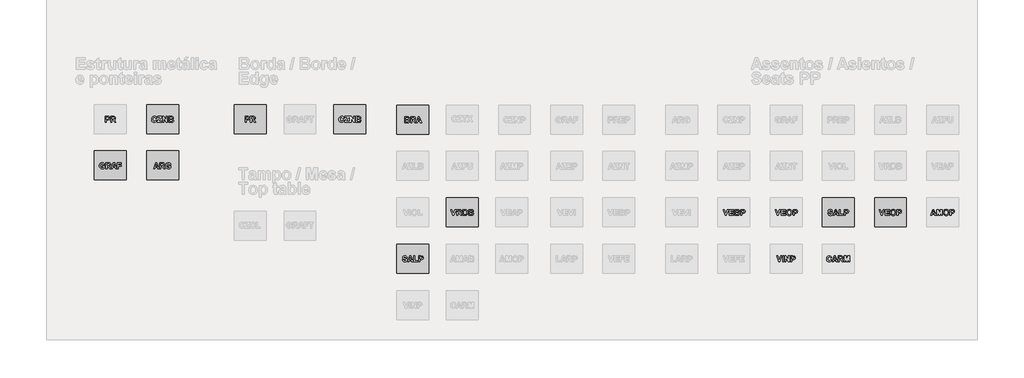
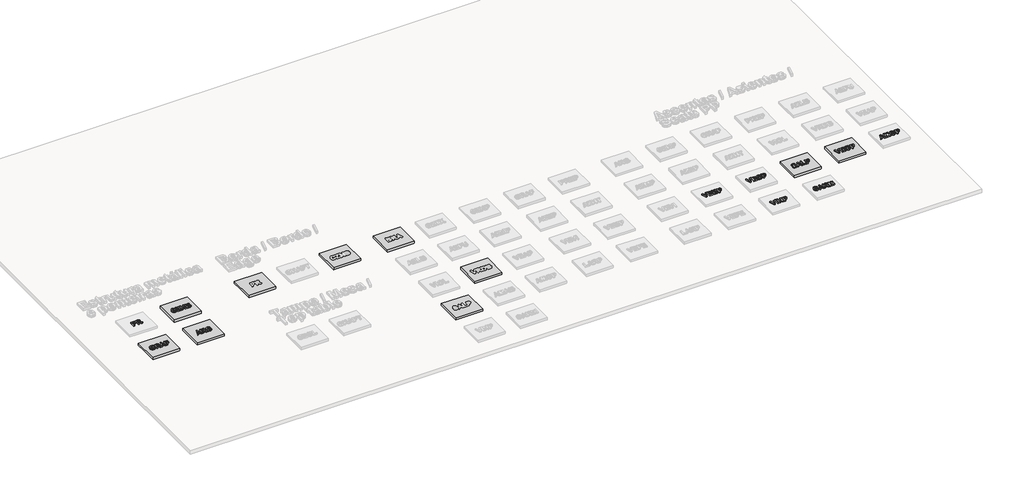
# One storey, part 3 of 11: 21 proxies.
"""IFC4 building model written with IfcOpenShell, lengths in millimetres."""

from ifc_helpers import new_model, si_unit, frame, origin, place, context, project, spatial, polyline, outline, extrude, transform, mapped, element, save
from components import generic_models_1_generic_models_1_b15fef0a, generic_models_10_generic_models_1_be3142f9, generic_models_2_generic_models_1_16534c7f, generic_models_27_generic_models_1_3b8869cb, generic_models_29_generic_models_1_1ee64e21, generic_models_33_generic_models_1_8c2d4387, generic_models_46_generic_models_1_758e49d4, generic_models_6_generic_models_1_0bd24bc8, generic_models_8_generic_models_1_6090e303

model = new_model("IFC4")

# Units and contexts
model_context = context("Model", 3, world=origin())
ifc_project = project(units=[si_unit("LENGTHUNIT", "METRE", prefix="MILLI")], contexts=[model_context])

# Site, building, storey
site = spatial("IfcSite", under=ifc_project)
building = spatial("IfcBuilding", under=site)
storey = spatial("IfcBuildingStorey", under=building, Name="Biblioteca BIM Revit Metadil - Refeitório", Elevation=0.0)

# Proxies
placement = place(None, origin())
element("IfcBuildingElementProxy", 1, Name="Arial 200mm", ObjectType="Arial 200mm", at=placement, inside=storey, context=model_context, shape_type="SweptSolid", body=[
    extrude(outline(polyline([(-14852.6470479, 2037.9143687), (-14813.7800232, 2024.9586938), (-14826.0398366, 1996.3334843), (-14844.3979268, 1976.1471764), (-14868.6898173, 1964.1720335), (-14898.7510317, 1960.1803192), (-14918.2130112, 1961.8851798), (-14935.8594248, 1966.9997614), (-14951.6902727, 1975.5240641), (-14965.7055548, 1987.4580879), (-14977.1746167, 2002.3495228), (-14985.3668037, 2019.746059), (-14990.2821159, 2039.6476963), (-14991.9205533, 2062.0544349), (-14990.2678824, 2085.682094), (-14985.3098696, 2106.5136553), (-14977.0465149, 2124.5491188), (-14965.4778184, 2139.7884844), (-14951.2142402, 2151.8996366), (-14934.8662408, 2160.5504596), (-14916.43382, 2165.7409533), (-14895.9169778, 2167.4711179), (-14861.807115, 2161.7650541), (-14847.409109, 2154.6324743), (-14834.7823868, 2144.6468625), (-14822.5225733, 2128.2371844), (-14813.7800232, 2105.9316621), (-14852.6470479, 2099.4538246), (-14858.5998263, 2112.8966025), (-14868.7657294, 2123.1637219), (-14882.3603317, 2129.6731894), (-14898.5992074, 2131.8430119), (-14920.556799, 2127.9019057), (-14937.9470092, 2116.0785872), (-14949.2768987, 2095.4368063), (-14953.0535286, 2065.0403131), (-14949.3907669, 2032.9800785), (-14938.4024821, 2011.6993703), (-14921.5436571, 1999.7811615), (-14900.2692749, 1995.8084253), (-14884.2075275, 1998.3451565), (-14870.5370131, 2005.9553503), (-14859.8270728, 2019.0185675), (-14852.6470479, 2037.9143687)])), frame((0.0, 0.0, 100.0), z_axis=(0.0, 0.0, 1.0), x_axis=(1.0, 0.0, 0.0)), (0.0, 0.0, 1.0), 50.0),
    extrude(outline(polyline([(-14797.5854295, 1960.1803192), (-14797.5854295, 1999.047344), (-14688.2213143, 2128.6040932), (-14784.6297546, 2128.6040932), (-14784.6297546, 2164.2321992), (-14638.8784117, 2164.2321992), (-14638.8784117, 2128.6040932), (-14750.9753647, 1995.8084253), (-14635.639493, 1995.8084253), (-14635.639493, 1960.1803192), (-14797.5854295, 1960.1803192)])), frame((0.0, 0.0, 100.0), z_axis=(0.0, 0.0, 1.0), x_axis=(1.0, 0.0, 0.0)), (0.0, 0.0, 1.0), 50.0),
    extrude(outline(polyline([(-14609.7281432, 1960.1803192), (-14609.7281432, 2164.2321992), (-14568.9886185, 2164.2321992), (-14483.4103127, 2026.8818018), (-14483.4103127, 2164.2321992), (-14444.5432879, 2164.2321992), (-14444.5432879, 1960.1803192), (-14486.5480152, 1960.1803192), (-14570.8611184, 2095.5063924), (-14570.8611184, 1960.1803192), (-14609.7281432, 1960.1803192)])), frame((0.0, 0.0, 100.0), z_axis=(0.0, 0.0, 1.0), x_axis=(1.0, 0.0, 0.0)), (0.0, 0.0, 1.0), 50.0),
    extrude(outline(polyline([(-14405.6762632, 2164.2321992), (-14321.9198491, 2164.2321992), (-14284.8494121, 2162.207875), (-14262.9867107, 2153.7310174), (-14246.9186373, 2136.5748697), (-14242.0982153, 2125.2196762), (-14240.491408, 2112.5613238), (-14242.4081899, 2098.7706152), (-14248.1585359, 2086.143893), (-14257.1984087, 2075.6047551), (-14268.9837712, 2068.0767994), (-14254.0796842, 2060.7639282), (-14243.0724213, 2049.6554491), (-14236.2782832, 2035.4978317), (-14234.0135705, 2019.0375455), (-14235.6393559, 2005.3670311), (-14240.516712, 1992.0887295), (-14248.209144, 1980.3223451), (-14258.2801569, 1971.1875821), (-14270.849945, 1964.867895), (-14286.0387026, 1961.5467381), (-14335.9382943, 1960.1803192), (-14405.6762632, 1960.1803192), (-14405.6762632, 2164.2321992)]), holes=[polyline([(-14366.8092384, 2128.6040932), (-14366.8092384, 2083.259231), (-14337.1528888, 2083.259231), (-14304.2576204, 2083.9171363), (-14286.0133985, 2090.9516629), (-14281.0221742, 2097.695193), (-14279.3584327, 2106.2859188), (-14280.7944377, 2114.5034099), (-14285.1024526, 2121.0381815), (-14302.13208, 2127.9461878), (-14340.7966724, 2128.6040932), (-14366.8092384, 2128.6040932)]), polyline([(-14366.8092384, 2047.6311249), (-14366.8092384, 1995.8084253), (-14325.715457, 1995.8084253), (-14295.2493777, 1997.0230198), (-14279.1053922, 2004.7407558), (-14274.4367945, 2011.9334328), (-14272.8805953, 2021.213694), (-14277.6883652, 2035.9912607), (-14291.5549861, 2044.8476792), (-14330.9280919, 2047.6311249), (-14366.8092384, 2047.6311249)])]), frame((0.0, 0.0, 100.0), z_axis=(0.0, 0.0, 1.0), x_axis=(1.0, 0.0, 0.0)), (0.0, 0.0, 1.0), 50.0),
])
element("IfcBuildingElementProxy", 2, Name="Arial 200mm", ObjectType="Arial 200mm", at=placement, inside=storey, context=model_context, shape_type="SweptSolid", body=[
    extrude(outline(polyline([(-14729.5681362, 360.1803192), (-14770.408877, 360.1803192), (-14786.4010383, 405.5251814), (-14863.4771824, 405.5251814), (-14879.2669112, 360.1803192), (-14920.6643413, 360.1803192), (-14846.1692105, 564.2321992), (-14804.7717804, 564.2321992), (-14729.5681362, 360.1803192)]), holes=[polyline([(-14798.8506321, 441.1532875), (-14825.1162387, 515.6484183), (-14851.0275886, 441.1532875), (-14798.8506321, 441.1532875)])]), frame((0.0, 0.0, 100.0), z_axis=(0.0, 0.0, 1.0), x_axis=(1.0, 0.0, 0.0)), (0.0, 0.0, 1.0), 50.0),
    extrude(outline(polyline([(-14710.1346238, 360.1803192), (-14710.1346238, 564.2321992), (-14624.3032775, 564.2321992), (-14596.3422994, 562.8531283), (-14577.2377397, 558.7159158), (-14564.0290242, 551.0487878), (-14553.7555789, 539.079971), (-14547.1512211, 523.9354955), (-14544.9497686, 506.7413918), (-14548.1317532, 485.675768), (-14557.677707, 468.6334886), (-14573.562326, 456.3863271), (-14595.7603061, 449.7060572), (-14575.3652398, 432.7017339), (-14553.7049708, 399.7558575), (-14528.7551749, 360.1803192), (-14574.1506452, 360.1803192), (-14603.7057787, 406.7903841), (-14626.9095949, 434.4477135), (-14640.1689184, 442.2666658), (-14662.3605725, 444.3922062), (-14671.267599, 444.3922062), (-14671.267599, 360.1803192), (-14710.1346238, 360.1803192)]), holes=[polyline([(-14671.267599, 480.0203122), (-14639.2326685, 480.0203122), (-14600.3403397, 482.3735891), (-14588.1943944, 490.4708859), (-14583.8167933, 504.8182838), (-14585.2591243, 513.5545079), (-14589.5861173, 520.4308842), (-14605.8819272, 527.9461878), (-14637.4613848, 528.6040932), (-14671.267599, 528.6040932), (-14671.267599, 480.0203122)])]), frame((0.0, 0.0, 100.0), z_axis=(0.0, 0.0, 1.0), x_axis=(1.0, 0.0, 0.0)), (0.0, 0.0, 1.0), 50.0),
    extrude(outline(polyline([(-14412.1541006, 434.67545), (-14412.1541006, 470.303556), (-14324.7032949, 470.303556), (-14324.7032949, 388.925723), (-14340.3158954, 376.9885361), (-14361.6472117, 366.5822445), (-14385.9897103, 359.3516115), (-14410.6358575, 356.9414005), (-14440.1024267, 360.2941875), (-14465.5456516, 370.3525484), (-14486.0672382, 386.6420322), (-14500.7688928, 408.688188), (-14509.6126591, 434.7070801), (-14512.5605813, 462.9147727), (-14509.2267723, 492.9317051), (-14499.2253456, 519.4187221), (-14482.7966894, 541.2624455), (-14460.1811924, 557.3494969), (-14438.1919707, 564.9407127), (-14411.3949791, 567.4711179), (-14377.6330469, 563.3845135), (-14352.158192, 551.1247), (-14334.6288096, 531.6532315), (-14324.7032949, 505.9316621), (-14363.5703197, 499.4538246), (-14370.1114173, 512.8966025), (-14380.6252511, 523.1637219), (-14394.6816523, 529.6731894), (-14411.850452, 531.8430119), (-14437.2936769, 527.6045831), (-14456.9422737, 514.8892967), (-14469.5057358, 493.8236729), (-14473.6935565, 464.5342321), (-14469.5310399, 433.0496646), (-14457.0434899, 410.5606879), (-14437.7997579, 397.0673019), (-14413.3686952, 392.5695065), (-14386.6223116, 397.5037968), (-14363.5703197, 409.4726136), (-14363.5703197, 434.67545), (-14412.1541006, 434.67545)])), frame((0.0, 0.0, 100.0), z_axis=(0.0, 0.0, 1.0), x_axis=(1.0, 0.0, 0.0)), (0.0, 0.0, 1.0), 50.0),
])
element("IfcBuildingElementProxy", 3, Name="Arial 200mm", ObjectType="Arial 200mm", at=placement, inside=storey, context=model_context, shape_type="SweptSolid", body=[
    extrude(outline(polyline([(-16589.4881327, 1960.1803192), (-16589.4881327, 2164.2321992), (-16523.7482041, 2164.2321992), (-16475.0125988, 2161.1957129), (-16458.9761555, 2153.9524279), (-16445.7864181, 2141.3320316), (-16436.9616298, 2123.8026492), (-16434.0200336, 2101.8324056), (-16435.7470352, 2084.6446278), (-16440.92804, 2070.4300763), (-16448.7722963, 2059.0685567), (-16458.4890525, 2050.4398748), (-16480.1240174, 2040.7990307), (-16523.3939474, 2037.9143687), (-16550.6211079, 2037.9143687), (-16550.6211079, 1960.1803192), (-16589.4881327, 1960.1803192)]), holes=[polyline([(-16550.6211079, 2128.6040932), (-16550.6211079, 2073.5424748), (-16526.4810418, 2073.5424748), (-16491.6373614, 2076.5789611), (-16477.8719568, 2086.1185889), (-16472.8870584, 2101.2251083), (-16474.639364, 2110.8786044), (-16479.896281, 2118.6849046), (-16497.5838137, 2127.2882825), (-16529.3150957, 2128.6040932), (-16550.6211079, 2128.6040932)])]), frame((0.0, 0.0, 100.0), z_axis=(0.0, 0.0, 1.0), x_axis=(1.0, 0.0, 0.0)), (0.0, 0.0, 1.0), 50.0),
    extrude(outline(polyline([(-16401.6308463, 1960.1803192), (-16401.6308463, 2164.2321992), (-16315.7995, 2164.2321992), (-16287.8385219, 2162.8531283), (-16268.7339622, 2158.7159158), (-16255.5252468, 2151.0487878), (-16245.2518014, 2139.079971), (-16238.6474437, 2123.9354955), (-16236.4459911, 2106.7413918), (-16239.6279757, 2085.675768), (-16249.1739296, 2068.6334886), (-16265.0585486, 2056.3863271), (-16287.2565287, 2049.7060572), (-16266.8614623, 2032.7017339), (-16245.2011933, 1999.7558575), (-16220.2513975, 1960.1803192), (-16265.6468678, 1960.1803192), (-16295.2020012, 2006.7903841), (-16318.4058174, 2034.4477135), (-16331.665141, 2042.2666658), (-16353.8567951, 2044.3922062), (-16362.7638216, 2044.3922062), (-16362.7638216, 1960.1803192), (-16401.6308463, 1960.1803192)]), holes=[polyline([(-16362.7638216, 2080.0203122), (-16330.728891, 2080.0203122), (-16291.8365622, 2082.3735891), (-16279.690617, 2090.4708859), (-16275.3130159, 2104.8182838), (-16276.7553469, 2113.5545079), (-16281.0823399, 2120.4308842), (-16297.3781497, 2127.9461878), (-16328.9576073, 2128.6040932), (-16362.7638216, 2128.6040932), (-16362.7638216, 2080.0203122)])]), frame((0.0, 0.0, 100.0), z_axis=(0.0, 0.0, 1.0), x_axis=(1.0, 0.0, 0.0)), (0.0, 0.0, 1.0), 50.0),
])
element("IfcBuildingElementProxy", 4, Name="Arial 200mm", ObjectType="Arial 200mm", at=placement, inside=storey, context=model_context, shape_type="SweptSolid", body=[
    extrude(outline(polyline([(-16693.133532, 434.67545), (-16693.133532, 470.303556), (-16605.6827263, 470.303556), (-16605.6827263, 388.925723), (-16621.2953268, 376.9885361), (-16642.6266431, 366.5822445), (-16666.9691417, 359.3516115), (-16691.6152889, 356.9414005), (-16721.0818581, 360.2941875), (-16746.525083, 370.3525484), (-16767.0466696, 386.6420322), (-16781.7483242, 408.688188), (-16790.5920906, 434.7070801), (-16793.5400127, 462.9147727), (-16790.2062038, 492.9317051), (-16780.204777, 519.4187221), (-16763.7761208, 541.2624455), (-16741.1606238, 557.3494969), (-16719.1714022, 564.9407127), (-16692.3744105, 567.4711179), (-16658.6124783, 563.3845135), (-16633.1376234, 551.1247), (-16615.608241, 531.6532315), (-16605.6827263, 505.9316621), (-16644.5497511, 499.4538246), (-16651.0908487, 512.8966025), (-16661.6046825, 523.1637219), (-16675.6610837, 529.6731894), (-16692.8298834, 531.8430119), (-16718.2731083, 527.6045831), (-16737.9217051, 514.8892967), (-16750.4851672, 493.8236729), (-16754.6729879, 464.5342321), (-16750.5104713, 433.0496646), (-16738.0229213, 410.5606879), (-16718.7791893, 397.0673019), (-16694.3481266, 392.5695065), (-16667.601743, 397.5037968), (-16644.5497511, 409.4726136), (-16644.5497511, 434.67545), (-16693.133532, 434.67545)])), frame((0.0, 0.0, 100.0), z_axis=(0.0, 0.0, 1.0), x_axis=(1.0, 0.0, 0.0)), (0.0, 0.0, 1.0), 50.0),
    extrude(outline(polyline([(-16566.8157016, 360.1803192), (-16566.8157016, 564.2321992), (-16480.9843552, 564.2321992), (-16453.0233771, 562.8531283), (-16433.9188174, 558.7159158), (-16420.710102, 551.0487878), (-16410.4366566, 539.079971), (-16403.8322989, 523.9354955), (-16401.6308463, 506.7413918), (-16404.812831, 485.675768), (-16414.3587848, 468.6334886), (-16430.2434038, 456.3863271), (-16452.4413839, 449.7060572), (-16432.0463175, 432.7017339), (-16410.3860485, 399.7558575), (-16385.4362527, 360.1803192), (-16430.831723, 360.1803192), (-16460.3868564, 406.7903841), (-16483.5906726, 434.4477135), (-16496.8499962, 442.2666658), (-16519.0416503, 444.3922062), (-16527.9486768, 444.3922062), (-16527.9486768, 360.1803192), (-16566.8157016, 360.1803192)]), holes=[polyline([(-16527.9486768, 480.0203122), (-16495.9137463, 480.0203122), (-16457.0214174, 482.3735891), (-16444.8754722, 490.4708859), (-16440.4978711, 504.8182838), (-16441.9402021, 513.5545079), (-16446.2671951, 520.4308842), (-16462.563005, 527.9461878), (-16494.1424626, 528.6040932), (-16527.9486768, 528.6040932), (-16527.9486768, 480.0203122)])]), frame((0.0, 0.0, 100.0), z_axis=(0.0, 0.0, 1.0), x_axis=(1.0, 0.0, 0.0)), (0.0, 0.0, 1.0), 50.0),
    extrude(outline(polyline([(-16191.1011289, 360.1803192), (-16231.9418698, 360.1803192), (-16247.934031, 405.5251814), (-16325.0101751, 405.5251814), (-16340.7999039, 360.1803192), (-16382.197334, 360.1803192), (-16307.7022032, 564.2321992), (-16266.3047732, 564.2321992), (-16191.1011289, 360.1803192)]), holes=[polyline([(-16260.3836249, 441.1532875), (-16286.6492314, 515.6484183), (-16312.5605813, 441.1532875), (-16260.3836249, 441.1532875)])]), frame((0.0, 0.0, 100.0), z_axis=(0.0, 0.0, 1.0), x_axis=(1.0, 0.0, 0.0)), (0.0, 0.0, 1.0), 50.0),
    extrude(outline(polyline([(-16171.6676165, 360.1803192), (-16171.6676165, 564.2321992), (-16032.3941111, 564.2321992), (-16032.3941111, 528.6040932), (-16132.8005918, 528.6040932), (-16132.8005918, 483.259231), (-16045.349786, 483.259231), (-16045.349786, 447.6311249), (-16132.8005918, 447.6311249), (-16132.8005918, 360.1803192), (-16171.6676165, 360.1803192)])), frame((0.0, 0.0, 100.0), z_axis=(0.0, 0.0, 1.0), x_axis=(1.0, 0.0, 0.0)), (0.0, 0.0, 1.0), 50.0),
])
element("IfcBuildingElementProxy", 5, Name="Arial 200mm", ObjectType="Arial 200mm", at=placement, inside=storey, context=model_context, shape_type="SweptSolid", body=[
    extrude(outline(polyline([(4788.2127806, -1251.3466779), (4719.4363656, -1047.2947979), (4760.4289308, -1047.2947979), (4811.7455495, -1199.5239782), (4863.2139924, -1047.2947979), (4904.0547333, -1047.2947979), (4831.6345348, -1251.3466779), (4788.2127806, -1251.3466779)])), frame((0.0, 0.0, 100.0), z_axis=(0.0, 0.0, 1.0), x_axis=(1.0, 0.0, 0.0)), (0.0, 0.0, 1.0), 50.0),
    extrude(outline(polyline([(4926.7271644, -1251.3466779), (4926.7271644, -1047.2947979), (5078.9563447, -1047.2947979), (5078.9563447, -1082.922904), (4965.5941891, -1082.922904), (4965.5941891, -1128.2677662), (5072.4785072, -1128.2677662), (5072.4785072, -1163.8958722), (4965.5941891, -1163.8958722), (4965.5941891, -1215.7185719), (5082.1952634, -1215.7185719), (5082.1952634, -1251.3466779), (4926.7271644, -1251.3466779)])), frame((0.0, 0.0, 100.0), z_axis=(0.0, 0.0, 1.0), x_axis=(1.0, 0.0, 0.0)), (0.0, 0.0, 1.0), 50.0),
    extrude(outline(polyline([(5114.5844507, -1047.2947979), (5198.3408647, -1047.2947979), (5235.4113018, -1049.3191221), (5257.2740032, -1057.7959797), (5273.3420766, -1074.9521274), (5278.1624986, -1086.307321), (5279.7693059, -1098.9656733), (5277.852524, -1112.7563819), (5272.102178, -1125.3831042), (5263.0623052, -1135.9222421), (5251.2769427, -1143.4501977), (5266.1810297, -1150.7630689), (5277.1882926, -1161.871548), (5283.9824307, -1176.0291654), (5286.2471434, -1192.4894516), (5284.621358, -1206.159966), (5279.7440019, -1219.4382676), (5272.0515699, -1231.2046521), (5261.980557, -1240.339415), (5249.4107689, -1246.6591022), (5234.2220113, -1249.9802591), (5184.3224196, -1251.3466779), (5114.5844507, -1251.3466779), (5114.5844507, -1047.2947979)]), holes=[polyline([(5153.4514755, -1082.922904), (5153.4514755, -1128.2677662), (5183.1078251, -1128.2677662), (5216.0030934, -1127.6098608), (5234.2473154, -1120.5753342), (5239.2385397, -1113.8318042), (5240.9022812, -1105.2410783), (5239.4662762, -1097.0235873), (5235.1582612, -1090.4888157), (5218.1286339, -1083.5808093), (5179.4640415, -1082.922904), (5153.4514755, -1082.922904)]), polyline([(5153.4514755, -1163.8958722), (5153.4514755, -1215.7185719), (5194.5452569, -1215.7185719), (5225.0113362, -1214.5039774), (5241.1553217, -1206.7862413), (5245.8239194, -1199.5935644), (5247.3801186, -1190.3133031), (5242.5723486, -1175.5357364), (5228.7057278, -1166.679318), (5189.332622, -1163.8958722), (5153.4514755, -1163.8958722)])]), frame((0.0, 0.0, 100.0), z_axis=(0.0, 0.0, 1.0), x_axis=(1.0, 0.0, 0.0)), (0.0, 0.0, 1.0), 50.0),
    extrude(outline(polyline([(5318.6363307, -1251.3466779), (5318.6363307, -1047.2947979), (5384.3762593, -1047.2947979), (5433.1118646, -1050.3312842), (5449.1483079, -1057.5745693), (5462.3380453, -1070.1949655), (5471.1628336, -1087.7243479), (5474.1044297, -1109.6945916), (5472.3774282, -1126.8823693), (5467.1964234, -1141.0969208), (5459.3521671, -1152.4584404), (5449.6354109, -1161.0871224), (5428.0004459, -1170.7279664), (5384.730516, -1173.6126284), (5357.5033555, -1173.6126284), (5357.5033555, -1251.3466779), (5318.6363307, -1251.3466779)]), holes=[polyline([(5357.5033555, -1082.922904), (5357.5033555, -1137.9845224), (5381.6434216, -1137.9845224), (5416.487102, -1134.9480361), (5430.2525066, -1125.4084082), (5435.237405, -1110.3018888), (5433.4850993, -1100.6483928), (5428.2281824, -1092.8420926), (5410.5406497, -1084.2387147), (5378.8093677, -1082.922904), (5357.5033555, -1082.922904)])]), frame((0.0, 0.0, 100.0), z_axis=(0.0, 0.0, 1.0), x_axis=(1.0, 0.0, 0.0)), (0.0, 0.0, 1.0), 50.0),
])
element("IfcBuildingElementProxy", 6, Name="Arial 200mm", ObjectType="Arial 200mm", at=placement, inside=storey, context=model_context, shape_type="SweptSolid", body=[
    extrude(outline(polyline([(10164.011393, -1251.3466779), (10095.2349781, -1047.2947979), (10136.2275433, -1047.2947979), (10187.5441619, -1199.5239782), (10239.0126049, -1047.2947979), (10279.8533457, -1047.2947979), (10207.4331473, -1251.3466779), (10164.011393, -1251.3466779)])), frame((0.0, 0.0, 100.0), z_axis=(0.0, 0.0, 1.0), x_axis=(1.0, 0.0, 0.0)), (0.0, 0.0, 1.0), 50.0),
    extrude(outline(polyline([(10302.5257769, -1251.3466779), (10302.5257769, -1047.2947979), (10454.7549572, -1047.2947979), (10454.7549572, -1082.922904), (10341.3928016, -1082.922904), (10341.3928016, -1128.2677662), (10448.2771197, -1128.2677662), (10448.2771197, -1163.8958722), (10341.3928016, -1163.8958722), (10341.3928016, -1215.7185719), (10457.9938759, -1215.7185719), (10457.9938759, -1251.3466779), (10302.5257769, -1251.3466779)])), frame((0.0, 0.0, 100.0), z_axis=(0.0, 0.0, 1.0), x_axis=(1.0, 0.0, 0.0)), (0.0, 0.0, 1.0), 50.0),
    extrude(outline(polyline([(10483.9052257, -1150.5859406), (10486.1952425, -1121.9670571), (10493.0652928, -1098.358376), (10511.7143795, -1070.448006), (10524.0943872, -1059.6748057), (10537.6004253, -1052.1025679), (10557.7677552, -1046.0675514), (10580.8197471, -1044.0558792), (10601.8537408, -1045.8002773), (10620.6736299, -1051.0334717), (10637.2794144, -1059.7554623), (10651.6710943, -1071.9662492), (10663.2951435, -1087.2831085), (10671.5980357, -1105.3233165), (10676.5797711, -1126.0868731), (10678.2403495, -1149.5737784), (10676.5924231, -1172.9009519), (10671.6486438, -1193.5395698), (10663.4090117, -1211.4896321), (10651.8735268, -1226.7511388), (10637.576737, -1238.9287141), (10621.0531907, -1247.6269822), (10602.3028878, -1252.845943), (10581.3258282, -1254.5855966), (10560.1273581, -1252.8538505), (10541.2189048, -1247.6586123), (10524.6004683, -1238.9998818), (10510.2720485, -1226.8776591), (10498.7365636, -1211.7189501), (10490.4969314, -1193.9507607), (10485.5531522, -1173.5730908), (10483.9052257, -1150.5859406)]), holes=[polyline([(10522.7722505, -1149.1689136), (10526.9031371, -1179.3693004), (10539.2957968, -1201.2446538), (10558.0524258, -1214.5292814), (10581.2752201, -1218.9574906), (10604.4474062, -1214.5609115), (10623.0522109, -1201.3711741), (10635.2930463, -1179.3882784), (10639.3733248, -1148.6122245), (10635.4005885, -1118.2979695), (10623.4823798, -1096.7895248), (10604.9851173, -1083.9603701), (10581.2752201, -1079.6839852), (10557.5147147, -1084.0109782), (10538.8656279, -1096.9919572), (10526.7955949, -1118.6901823), (10522.7722505, -1149.1689136)])]), frame((0.0, 0.0, 100.0), z_axis=(0.0, 0.0, 1.0), x_axis=(1.0, 0.0, 0.0)), (0.0, 0.0, 1.0), 50.0),
    extrude(outline(polyline([(10710.6295368, -1251.3466779), (10710.6295368, -1047.2947979), (10776.3694654, -1047.2947979), (10825.1050707, -1050.3312842), (10841.141514, -1057.5745693), (10854.3312514, -1070.1949655), (10863.1560398, -1087.7243479), (10866.0976359, -1109.6945916), (10864.3706343, -1126.8823693), (10859.1896295, -1141.0969208), (10851.3453732, -1152.4584404), (10841.628617, -1161.0871224), (10819.9936521, -1170.7279664), (10776.7237222, -1173.6126284), (10749.4965616, -1173.6126284), (10749.4965616, -1251.3466779), (10710.6295368, -1251.3466779)]), holes=[polyline([(10749.4965616, -1082.922904), (10749.4965616, -1137.9845224), (10773.6366278, -1137.9845224), (10808.4803082, -1134.9480361), (10822.2457128, -1125.4084082), (10827.2306111, -1110.3018888), (10825.4783055, -1100.6483928), (10820.2213886, -1092.8420926), (10802.5338558, -1084.2387147), (10770.8025739, -1082.922904), (10749.4965616, -1082.922904)])]), frame((0.0, 0.0, 100.0), z_axis=(0.0, 0.0, 1.0), x_axis=(1.0, 0.0, 0.0)), (0.0, 0.0, 1.0), 50.0),
])
element("IfcBuildingElementProxy", 7, Name="Arial 200mm", ObjectType="Arial 200mm", at=placement, inside=storey, context=model_context, shape_type="SweptSolid", body=[
    extrude(outline(polyline([(12060.4198334, -1251.3466779), (12019.5790925, -1251.3466779), (12003.5869313, -1206.0018157), (11926.5107871, -1206.0018157), (11910.7210583, -1251.3466779), (11869.3236283, -1251.3466779), (11943.8187591, -1047.2947979), (11985.2161891, -1047.2947979), (12060.4198334, -1251.3466779)]), holes=[polyline([(11991.1373374, -1170.3737097), (11964.8717308, -1095.8785789), (11938.960381, -1170.3737097), (11991.1373374, -1170.3737097)])]), frame((0.0, 0.0, 100.0), z_axis=(0.0, 0.0, 1.0), x_axis=(1.0, 0.0, 0.0)), (0.0, 0.0, 1.0), 50.0),
    extrude(outline(polyline([(12079.8533457, -1251.3466779), (12079.8533457, -1047.2947979), (12146.4536121, -1047.2947979), (12178.640367, -1186.4670871), (12210.8271219, -1047.2947979), (12277.4273883, -1047.2947979), (12277.4273883, -1251.3466779), (12238.5603635, -1251.3466779), (12236.9409042, -1090.7165522), (12201.4140143, -1251.3466779), (12155.9173278, -1251.3466779), (12120.3398299, -1090.7165522), (12118.7203705, -1251.3466779), (12079.8533457, -1251.3466779)])), frame((0.0, 0.0, 100.0), z_axis=(0.0, 0.0, 1.0), x_axis=(1.0, 0.0, 0.0)), (0.0, 0.0, 1.0), 50.0),
    extrude(outline(polyline([(12309.8165756, -1150.5859406), (12312.1065923, -1121.9670571), (12318.9766426, -1098.358376), (12337.6257294, -1070.448006), (12350.0057371, -1059.6748057), (12363.5117751, -1052.1025679), (12383.6791051, -1046.0675514), (12406.731097, -1044.0558792), (12427.7650907, -1045.8002773), (12446.5849798, -1051.0334717), (12463.1907643, -1059.7554623), (12477.5824442, -1071.9662492), (12489.2064933, -1087.2831085), (12497.5093856, -1105.3233165), (12502.4911209, -1126.0868731), (12504.1516994, -1149.5737784), (12502.503773, -1172.9009519), (12497.5599937, -1193.5395698), (12489.3203616, -1211.4896321), (12477.7848766, -1226.7511388), (12463.4880869, -1238.9287141), (12446.9645406, -1247.6269822), (12428.2142376, -1252.845943), (12407.237178, -1254.5855966), (12386.038708, -1252.8538505), (12367.1302547, -1247.6586123), (12350.5118181, -1238.9998818), (12336.1833984, -1226.8776591), (12324.6479134, -1211.7189501), (12316.4082813, -1193.9507607), (12311.464502, -1173.5730908), (12309.8165756, -1150.5859406)]), holes=[polyline([(12348.6836003, -1149.1689136), (12352.8144869, -1179.3693004), (12365.2071467, -1201.2446538), (12383.9637756, -1214.5292814), (12407.1865699, -1218.9574906), (12430.358756, -1214.5609115), (12448.9635607, -1201.3711741), (12461.2043961, -1179.3882784), (12465.2846746, -1148.6122245), (12461.3119384, -1118.2979695), (12449.3937296, -1096.7895248), (12430.8964672, -1083.9603701), (12407.1865699, -1079.6839852), (12383.4260645, -1084.0109782), (12364.7769778, -1096.9919572), (12352.7069447, -1118.6901823), (12348.6836003, -1149.1689136)])]), frame((0.0, 0.0, 100.0), z_axis=(0.0, 0.0, 1.0), x_axis=(1.0, 0.0, 0.0)), (0.0, 0.0, 1.0), 50.0),
    extrude(outline(polyline([(12536.5408867, -1251.3466779), (12536.5408867, -1047.2947979), (12602.2808153, -1047.2947979), (12651.0164205, -1050.3312842), (12667.0528639, -1057.5745693), (12680.2426013, -1070.1949655), (12689.0673896, -1087.7243479), (12692.0089857, -1109.6945916), (12690.2819841, -1126.8823693), (12685.1009794, -1141.0969208), (12677.2567231, -1152.4584404), (12667.5399669, -1161.0871224), (12645.9050019, -1170.7279664), (12602.635072, -1173.6126284), (12575.4079114, -1173.6126284), (12575.4079114, -1251.3466779), (12536.5408867, -1251.3466779)]), holes=[polyline([(12575.4079114, -1082.922904), (12575.4079114, -1137.9845224), (12599.5479776, -1137.9845224), (12634.391658, -1134.9480361), (12648.1570626, -1125.4084082), (12653.141961, -1110.3018888), (12651.3896553, -1100.6483928), (12646.1327384, -1092.8420926), (12628.4452056, -1084.2387147), (12596.7139237, -1082.922904), (12575.4079114, -1082.922904)])]), frame((0.0, 0.0, 100.0), z_axis=(0.0, 0.0, 1.0), x_axis=(1.0, 0.0, 0.0)), (0.0, 0.0, 1.0), 50.0),
])
element("IfcBuildingElementProxy", 8, Name="Arial 200mm", ObjectType="Arial 200mm", at=placement, inside=storey, context=model_context, shape_type="SweptSolid", body=[
    extrude(outline(polyline([(8327.6241654, -1183.3293846), (8366.4911902, -1180.0904659), (8372.159298, -1197.47435), (8381.6736217, -1209.5443831), (8395.0974216, -1216.6042137), (8412.4939578, -1218.9574906), (8430.5483993, -1216.8762323), (8443.5167262, -1210.6324573), (8451.3356785, -1201.6052366), (8453.9419959, -1191.1736409), (8449.6150029, -1179.0023916), (8434.4578754, -1170.2724935), (8400.7528774, -1161.6185075), (8371.9821696, -1152.6735249), (8353.2824747, -1141.7295221), (8338.8971209, -1123.0930874), (8334.1020029, -1100.7875651), (8336.3034555, -1085.7569578), (8342.9078132, -1071.7385127), (8353.6620355, -1059.832956), (8368.313082, -1051.1410139), (8386.620564, -1045.8271629), (8408.3440932, -1044.0558792), (8441.9162449, -1048.4714364), (8466.012029, -1061.7181079), (8480.7706177, -1082.3282587), (8486.3311832, -1108.8342538), (8447.4641584, -1108.8342538), (8443.1687955, -1095.48004), (8435.7483821, -1086.4907754), (8424.5197088, -1081.3856828), (8408.7995661, -1079.6839852), (8392.2507157, -1081.493225), (8379.7505137, -1086.9209443), (8374.6643992, -1092.3613156), (8372.9690277, -1099.3705381), (8374.5125749, -1105.9875479), (8379.1432165, -1111.5670915), (8392.5859944, -1118.1018631), (8417.2258156, -1124.8517191), (8461.9380765, -1139.2244209), (8474.8431433, -1148.1251214), (8484.6105076, -1159.7966157), (8490.7593924, -1174.384402), (8492.8090207, -1192.0339787), (8490.3861576, -1208.8864777), (8483.1175685, -1224.6255984), (8471.4144442, -1237.8596179), (8455.6879755, -1247.1968133), (8435.7673601, -1252.7384008), (8411.4817957, -1254.5855966), (8377.3972369, -1250.0371932), (8352.2703126, -1236.3919828), (8335.7847224, -1214.0295264), (8327.6241654, -1183.3293846)])), frame((0.0, 0.0, 100.0), z_axis=(0.0, 0.0, 1.0), x_axis=(1.0, 0.0, 0.0)), (0.0, 0.0, 1.0), 50.0),
    extrude(outline(polyline([(8696.8609007, -1251.3466779), (8656.0201598, -1251.3466779), (8640.0279986, -1206.0018157), (8562.9518544, -1206.0018157), (8547.1621256, -1251.3466779), (8505.7646956, -1251.3466779), (8580.2598264, -1047.2947979), (8621.6572564, -1047.2947979), (8696.8609007, -1251.3466779)]), holes=[polyline([(8627.5784047, -1170.3737097), (8601.3127981, -1095.8785789), (8575.4014483, -1170.3737097), (8627.5784047, -1170.3737097)])]), frame((0.0, 0.0, 100.0), z_axis=(0.0, 0.0, 1.0), x_axis=(1.0, 0.0, 0.0)), (0.0, 0.0, 1.0), 50.0),
    extrude(outline(polyline([(8716.294413, -1251.3466779), (8716.294413, -1047.2947979), (8755.1614378, -1047.2947979), (8755.1614378, -1215.7185719), (8858.8068372, -1215.7185719), (8858.8068372, -1251.3466779), (8716.294413, -1251.3466779)])), frame((0.0, 0.0, 100.0), z_axis=(0.0, 0.0, 1.0), x_axis=(1.0, 0.0, 0.0)), (0.0, 0.0, 1.0), 50.0),
    extrude(outline(polyline([(8887.9571057, -1251.3466779), (8887.9571057, -1047.2947979), (8953.6970343, -1047.2947979), (9002.4326396, -1050.3312842), (9018.4690829, -1057.5745693), (9031.6588203, -1070.1949655), (9040.4836087, -1087.7243479), (9043.4252048, -1109.6945916), (9041.6982032, -1126.8823693), (9036.5171984, -1141.0969208), (9028.6729421, -1152.4584404), (9018.9561859, -1161.0871224), (8997.321221, -1170.7279664), (8954.0512911, -1173.6126284), (8926.8241305, -1173.6126284), (8926.8241305, -1251.3466779), (8887.9571057, -1251.3466779)]), holes=[polyline([(8926.8241305, -1082.922904), (8926.8241305, -1137.9845224), (8950.9641966, -1137.9845224), (8985.807877, -1134.9480361), (8999.5732817, -1125.4084082), (9004.55818, -1110.3018888), (9002.8058744, -1100.6483928), (8997.5489574, -1092.8420926), (8979.8614247, -1084.2387147), (8948.1301428, -1082.922904), (8926.8241305, -1082.922904)])]), frame((0.0, 0.0, 100.0), z_axis=(0.0, 0.0, 1.0), x_axis=(1.0, 0.0, 0.0)), (0.0, 0.0, 1.0), 50.0),
])
element("IfcBuildingElementProxy", 9, Name="Arial 200mm", ObjectType="Arial 200mm", at=placement, inside=storey, context=model_context, shape_type="SweptSolid", body=[
    extrude(outline(polyline([(6580.1154837, -1251.3466779), (6511.3390688, -1047.2947979), (6552.331634, -1047.2947979), (6603.6482526, -1199.5239782), (6655.1166956, -1047.2947979), (6695.9574364, -1047.2947979), (6623.537238, -1251.3466779), (6580.1154837, -1251.3466779)])), frame((0.0, 0.0, 100.0), z_axis=(0.0, 0.0, 1.0), x_axis=(1.0, 0.0, 0.0)), (0.0, 0.0, 1.0), 50.0),
    extrude(outline(polyline([(6718.6298675, -1251.3466779), (6718.6298675, -1047.2947979), (6870.8590479, -1047.2947979), (6870.8590479, -1082.922904), (6757.4968923, -1082.922904), (6757.4968923, -1128.2677662), (6864.3812104, -1128.2677662), (6864.3812104, -1163.8958722), (6757.4968923, -1163.8958722), (6757.4968923, -1215.7185719), (6874.0979666, -1215.7185719), (6874.0979666, -1251.3466779), (6718.6298675, -1251.3466779)])), frame((0.0, 0.0, 100.0), z_axis=(0.0, 0.0, 1.0), x_axis=(1.0, 0.0, 0.0)), (0.0, 0.0, 1.0), 50.0),
    extrude(outline(polyline([(6900.0093164, -1150.5859406), (6902.2993332, -1121.9670571), (6909.1693835, -1098.358376), (6927.8184702, -1070.448006), (6940.1984779, -1059.6748057), (6953.704516, -1052.1025679), (6973.8718459, -1046.0675514), (6996.9238378, -1044.0558792), (7017.9578315, -1045.8002773), (7036.7777206, -1051.0334717), (7053.3835051, -1059.7554623), (7067.775185, -1071.9662492), (7079.3992342, -1087.2831085), (7087.7021264, -1105.3233165), (7092.6838618, -1126.0868731), (7094.3444402, -1149.5737784), (7092.6965138, -1172.9009519), (7087.7527345, -1193.5395698), (7079.5131024, -1211.4896321), (7067.9776174, -1226.7511388), (7053.6808277, -1238.9287141), (7037.1572814, -1247.6269822), (7018.4069784, -1252.845943), (6997.4299189, -1254.5855966), (6976.2314488, -1252.8538505), (6957.3229955, -1247.6586123), (6940.704559, -1238.9998818), (6926.3761392, -1226.8776591), (6914.8406542, -1211.7189501), (6906.6010221, -1193.9507607), (6901.6572428, -1173.5730908), (6900.0093164, -1150.5859406)]), holes=[polyline([(6938.8763412, -1149.1689136), (6943.0072278, -1179.3693004), (6955.3998875, -1201.2446538), (6974.1565165, -1214.5292814), (6997.3793107, -1218.9574906), (7020.5514969, -1214.5609115), (7039.1563016, -1201.3711741), (7051.397137, -1179.3882784), (7055.4774155, -1148.6122245), (7051.5046792, -1118.2979695), (7039.5864704, -1096.7895248), (7021.089208, -1083.9603701), (6997.3793107, -1079.6839852), (6973.6188054, -1084.0109782), (6954.9697186, -1096.9919572), (6942.8996855, -1118.6901823), (6938.8763412, -1149.1689136)])]), frame((0.0, 0.0, 100.0), z_axis=(0.0, 0.0, 1.0), x_axis=(1.0, 0.0, 0.0)), (0.0, 0.0, 1.0), 50.0),
    extrude(outline(polyline([(7126.7336275, -1251.3466779), (7126.7336275, -1047.2947979), (7192.4735561, -1047.2947979), (7241.2091614, -1050.3312842), (7257.2456047, -1057.5745693), (7270.4353421, -1070.1949655), (7279.2601305, -1087.7243479), (7282.2017266, -1109.6945916), (7280.474725, -1126.8823693), (7275.2937202, -1141.0969208), (7267.4494639, -1152.4584404), (7257.7327077, -1161.0871224), (7236.0977428, -1170.7279664), (7192.8278129, -1173.6126284), (7165.6006523, -1173.6126284), (7165.6006523, -1251.3466779), (7126.7336275, -1251.3466779)]), holes=[polyline([(7165.6006523, -1082.922904), (7165.6006523, -1137.9845224), (7189.7407184, -1137.9845224), (7224.5843988, -1134.9480361), (7238.3498034, -1125.4084082), (7243.3347018, -1110.3018888), (7241.5823962, -1100.6483928), (7236.3254792, -1092.8420926), (7218.6379465, -1084.2387147), (7186.9066646, -1082.922904), (7165.6006523, -1082.922904)])]), frame((0.0, 0.0, 100.0), z_axis=(0.0, 0.0, 1.0), x_axis=(1.0, 0.0, 0.0)), (0.0, 0.0, 1.0), 50.0),
])
element("IfcBuildingElementProxy", 10, Name="Arial 200mm", ObjectType="Arial 200mm", at=placement, inside=storey, context=model_context, shape_type="SweptSolid", body=[
    extrude(outline(polyline([(8421.5528086, -2773.6126284), (8460.4198334, -2786.5683033), (8448.1600199, -2815.1935128), (8429.8019297, -2835.3798207), (8405.5100393, -2847.3549636), (8375.4488248, -2851.3466779), (8355.9868454, -2849.6418174), (8338.3404317, -2844.5272357), (8322.5095838, -2836.002933), (8308.4943017, -2824.0689092), (8297.0252399, -2809.1774743), (8288.8330528, -2791.7809381), (8283.9177406, -2771.8793008), (8282.2793032, -2749.4725622), (8283.9319741, -2725.8449031), (8288.889987, -2705.0133419), (8297.1533416, -2686.9778784), (8308.7220382, -2671.7385127), (8322.9856163, -2659.6273606), (8339.3336158, -2650.9765376), (8357.7660366, -2645.7860438), (8378.2828787, -2644.0558792), (8412.3927416, -2649.7619431), (8426.7907475, -2656.8945229), (8439.4174697, -2666.8801346), (8451.6772832, -2683.2898127), (8460.4198334, -2705.5953351), (8421.5528086, -2712.0731725), (8415.6000302, -2698.6303946), (8405.4341271, -2688.3632753), (8391.8395249, -2681.8538077), (8375.6006491, -2679.6839852), (8353.6430575, -2683.6250914), (8336.2528474, -2695.44841), (8324.9229578, -2716.0901909), (8321.146328, -2746.486684), (8324.8090896, -2778.5469187), (8335.7973744, -2799.8276269), (8352.6561994, -2811.7458356), (8373.9305817, -2815.7185719), (8389.992329, -2813.1818406), (8403.6628434, -2805.5716468), (8414.3727837, -2792.5084297), (8421.5528086, -2773.6126284)])), frame((0.0, 0.0, 100.0), z_axis=(0.0, 0.0, 1.0), x_axis=(1.0, 0.0, 0.0)), (0.0, 0.0, 1.0), 50.0),
    extrude(outline(polyline([(8664.4717134, -2851.3466779), (8623.6309725, -2851.3466779), (8607.6388113, -2806.0018157), (8530.5626671, -2806.0018157), (8514.7729383, -2851.3466779), (8473.3755083, -2851.3466779), (8547.8706391, -2647.2947979), (8589.2680691, -2647.2947979), (8664.4717134, -2851.3466779)]), holes=[polyline([(8595.1892174, -2770.3737097), (8568.9236108, -2695.8785789), (8543.012261, -2770.3737097), (8595.1892174, -2770.3737097)])]), frame((0.0, 0.0, 100.0), z_axis=(0.0, 0.0, 1.0), x_axis=(1.0, 0.0, 0.0)), (0.0, 0.0, 1.0), 50.0),
    extrude(outline(polyline([(8683.9052257, -2851.3466779), (8683.9052257, -2647.2947979), (8769.7365721, -2647.2947979), (8797.6975502, -2648.6738688), (8816.8021099, -2652.8110814), (8830.0108253, -2660.4782093), (8840.2842707, -2672.4470262), (8846.8886284, -2687.5915017), (8849.090081, -2704.7856054), (8845.9080964, -2725.8512292), (8836.3621425, -2742.8935086), (8820.4775235, -2755.14067), (8798.2795434, -2761.8209399), (8818.6746098, -2778.8252632), (8840.3348788, -2811.7711397), (8865.2846746, -2851.3466779), (8819.8892043, -2851.3466779), (8790.3340709, -2804.7366131), (8767.1302547, -2777.0792836), (8753.8709311, -2769.2603314), (8731.679277, -2767.1347909), (8722.7722505, -2767.1347909), (8722.7722505, -2851.3466779), (8683.9052257, -2851.3466779)]), holes=[polyline([(8722.7722505, -2731.5066849), (8754.8071811, -2731.5066849), (8793.6995099, -2729.153408), (8805.8454551, -2721.0561112), (8810.2230562, -2706.7087134), (8808.7807252, -2697.9724892), (8804.4537322, -2691.0961129), (8788.1579224, -2683.5808093), (8756.5784647, -2682.922904), (8722.7722505, -2682.922904), (8722.7722505, -2731.5066849)])]), frame((0.0, 0.0, 100.0), z_axis=(0.0, 0.0, 1.0), x_axis=(1.0, 0.0, 0.0)), (0.0, 0.0, 1.0), 50.0),
    extrude(outline(polyline([(8887.9571057, -2851.3466779), (8887.9571057, -2647.2947979), (8954.5573721, -2647.2947979), (8986.744127, -2786.4670871), (9018.9308819, -2647.2947979), (9085.5311483, -2647.2947979), (9085.5311483, -2851.3466779), (9046.6641235, -2851.3466779), (9045.0446641, -2690.7165522), (9009.5177743, -2851.3466779), (8964.0210878, -2851.3466779), (8928.4435899, -2690.7165522), (8926.8241305, -2851.3466779), (8887.9571057, -2851.3466779)])), frame((0.0, 0.0, 100.0), z_axis=(0.0, 0.0, 1.0), x_axis=(1.0, 0.0, 0.0)), (0.0, 0.0, 1.0), 50.0),
])
element("IfcBuildingElementProxy", 11, Name="Arial 200mm", ObjectType="Arial 200mm", at=placement, inside=storey, context=model_context, shape_type="SweptSolid", body=[
    extrude(outline(polyline([(6627.1703083, -2851.3466779), (6558.3938934, -2647.2947979), (6599.3864585, -2647.2947979), (6650.7030772, -2799.5239782), (6702.1715201, -2647.2947979), (6743.012261, -2647.2947979), (6670.5920625, -2851.3466779), (6627.1703083, -2851.3466779)])), frame((0.0, 0.0, 100.0), z_axis=(0.0, 0.0, 1.0), x_axis=(1.0, 0.0, 0.0)), (0.0, 0.0, 1.0), 50.0),
    extrude(outline(polyline([(6765.6846921, -2851.3466779), (6765.6846921, -2647.2947979), (6804.5517169, -2647.2947979), (6804.5517169, -2851.3466779), (6765.6846921, -2851.3466779)])), frame((0.0, 0.0, 100.0), z_axis=(0.0, 0.0, 1.0), x_axis=(1.0, 0.0, 0.0)), (0.0, 0.0, 1.0), 50.0),
    extrude(outline(polyline([(6843.4187416, -2851.3466779), (6843.4187416, -2647.2947979), (6884.1582663, -2647.2947979), (6969.7365721, -2784.6451953), (6969.7365721, -2647.2947979), (7008.6035968, -2647.2947979), (7008.6035968, -2851.3466779), (6966.5988696, -2851.3466779), (6882.2857664, -2716.0206047), (6882.2857664, -2851.3466779), (6843.4187416, -2851.3466779)])), frame((0.0, 0.0, 100.0), z_axis=(0.0, 0.0, 1.0), x_axis=(1.0, 0.0, 0.0)), (0.0, 0.0, 1.0), 50.0),
    extrude(outline(polyline([(7047.4706216, -2851.3466779), (7047.4706216, -2647.2947979), (7113.2105502, -2647.2947979), (7161.9461555, -2650.3312842), (7177.9825988, -2657.5745693), (7191.1723362, -2670.1949655), (7199.9971245, -2687.7243479), (7202.9387206, -2709.6945916), (7201.2117191, -2726.8823693), (7196.0307143, -2741.0969208), (7188.186458, -2752.4584404), (7178.4697018, -2761.0871224), (7156.8347368, -2770.7279664), (7113.5648069, -2773.6126284), (7086.3376464, -2773.6126284), (7086.3376464, -2851.3466779), (7047.4706216, -2851.3466779)]), holes=[polyline([(7086.3376464, -2682.922904), (7086.3376464, -2737.9845224), (7110.4777125, -2737.9845224), (7145.3213929, -2734.9480361), (7159.0867975, -2725.4084082), (7164.0716959, -2710.3018888), (7162.3193902, -2700.6483928), (7157.0624733, -2692.8420926), (7139.3749406, -2684.2387147), (7107.6436586, -2682.922904), (7086.3376464, -2682.922904)])]), frame((0.0, 0.0, 100.0), z_axis=(0.0, 0.0, 1.0), x_axis=(1.0, 0.0, 0.0)), (0.0, 0.0, 1.0), 50.0),
])
generic_models_1_generic_models_1_shape = generic_models_1_generic_models_1_b15fef0a(model_context)
element("IfcBuildingElementProxy", 12, Name="Generic Models 1 : Generic Models 1", ObjectType="Generic Models 1 : Generic Models 1", at=placement, inside=storey, context=model_context, shape_type="MappedRepresentation", body=[
    mapped(generic_models_1_generic_models_1_shape, transform((-17418.4989422, 10787.4229657, 0.0), x_axis=(1.0, 0.0, 0.0), y_axis=(0.0, 1.0, 0.0), z_axis=(0.0, 0.0, 1.0))),
])
generic_models_10_generic_models_1_shape = generic_models_10_generic_models_1_be3142f9(model_context)
element("IfcBuildingElementProxy", 13, Name="Generic Models 10 : Generic Models 1", ObjectType="Generic Models 10 : Generic Models 1", at=placement, inside=storey, context=model_context, shape_type="MappedRepresentation", body=[
    mapped(generic_models_10_generic_models_1_shape, transform((-23478.4989422, 10987.4229657, 0.0), x_axis=(1.0, 0.0, 0.0), y_axis=(0.0, 1.0, 0.0), z_axis=(0.0, 0.0, 1.0))),
])
generic_models_2_generic_models_1_shape = generic_models_2_generic_models_1_16534c7f(model_context)
element("IfcBuildingElementProxy", 14, Name="Generic Models 2 : Generic Models 1", ObjectType="Generic Models 2 : Generic Models 1", at=placement, inside=storey, context=model_context, shape_type="MappedRepresentation", body=[
    mapped(generic_models_2_generic_models_1_shape, transform((-18658.4989422, 10787.4229657, 0.0), x_axis=(1.0, 0.0, 0.0), y_axis=(0.0, 1.0, 0.0), z_axis=(0.0, 0.0, 1.0))),
])
generic_models_27_generic_models_1_shape = generic_models_27_generic_models_1_3b8869cb(model_context)
element("IfcBuildingElementProxy", 15, Name="Generic Models 27 : Generic Models 1", ObjectType="Generic Models 27 : Generic Models 1", at=placement, inside=storey, context=model_context, shape_type="MappedRepresentation", body=[
    mapped(generic_models_27_generic_models_1_shape, transform((-16079.851513, 5843.0756766, 0.0), x_axis=(1.0, 0.0, 0.0), y_axis=(0.0, 1.0, 0.0), z_axis=(0.0, 0.0, 1.0))),
])
generic_models_29_generic_models_1_shape = generic_models_29_generic_models_1_1ee64e21(model_context)
element("IfcBuildingElementProxy", 16, Name="Generic Models 29 : Generic Models 1", ObjectType="Generic Models 29 : Generic Models 1", at=placement, inside=storey, context=model_context, shape_type="MappedRepresentation", body=[
    mapped(generic_models_29_generic_models_1_shape, transform((-16175.9556036, 2643.0756766, 0.0), x_axis=(1.0, 0.0, 0.0), y_axis=(0.0, 1.0, 0.0), z_axis=(0.0, 0.0, 1.0))),
])
generic_models_33_generic_models_1_shape = generic_models_33_generic_models_1_8c2d4387(model_context)
element("IfcBuildingElementProxy", 17, Name="Generic Models 33 : Generic Models 1", ObjectType="Generic Models 33 : Generic Models 1", at=placement, inside=storey, context=model_context, shape_type="MappedRepresentation", body=[
    mapped(generic_models_33_generic_models_1_shape, transform((-16272.0596943, 7443.0756766, 0.0), x_axis=(1.0, 0.0, 0.0), y_axis=(0.0, 1.0, 0.0), z_axis=(0.0, 0.0, 1.0))),
])
generic_models_46_generic_models_1_shape = generic_models_46_generic_models_1_758e49d4(model_context)
element("IfcBuildingElementProxy", 18, Name="Generic Models 46 : Generic Models 1", ObjectType="Generic Models 46 : Generic Models 1", at=placement, inside=storey, context=model_context, shape_type="MappedRepresentation", body=[
    mapped(generic_models_46_generic_models_1_shape, transform((9675.710542, -1470.1419587, 0.0), x_axis=(1.0, 0.0, 0.0), y_axis=(0.0, 1.0, 0.0), z_axis=(0.0, 0.0, 1.0))),
])
generic_models_6_generic_models_1_shape = generic_models_6_generic_models_1_0bd24bc8(model_context)
element("IfcBuildingElementProxy", 19, Name="Generic Models 6 : Generic Models 1", ObjectType="Generic Models 6 : Generic Models 1", at=placement, inside=storey, context=model_context, shape_type="MappedRepresentation", body=[
    mapped(generic_models_6_generic_models_1_shape, transform((9771.8146326, -1470.1419587, 0.0), x_axis=(1.0, 0.0, 0.0), y_axis=(0.0, 1.0, 0.0), z_axis=(0.0, 0.0, 1.0))),
])
generic_models_8_generic_models_1_shape = generic_models_8_generic_models_1_6090e303(model_context)
element("IfcBuildingElementProxy", 20, Name="Generic Models 8 : Generic Models 1", ObjectType="Generic Models 8 : Generic Models 1", at=placement, inside=storey, context=model_context, shape_type="MappedRepresentation", body=[
    mapped(generic_models_8_generic_models_1_shape, transform((-23878.4989422, 10987.4229657, 0.0), x_axis=(1.0, 0.0, 0.0), y_axis=(0.0, 1.0, 0.0), z_axis=(0.0, 0.0, 1.0))),
])
element("IfcBuildingElementProxy", 21, Name="Generic Models 9 : Generic Models 1", ObjectType="Generic Models 9 : Generic Models 1", at=placement, inside=storey, context=model_context, shape_type="MappedRepresentation", body=[
    mapped(generic_models_1_generic_models_1_shape, transform((-23878.4989422, 10787.4229657, 0.0), x_axis=(1.0, 0.0, 0.0), y_axis=(0.0, 1.0, 0.0), z_axis=(0.0, 0.0, 1.0))),
])

save(model, "model.ifc")
